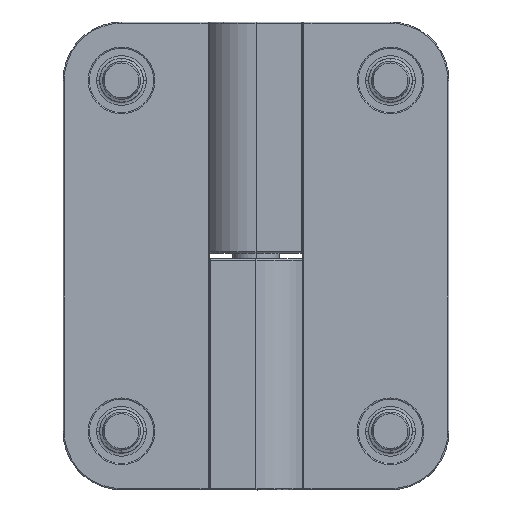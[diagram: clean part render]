
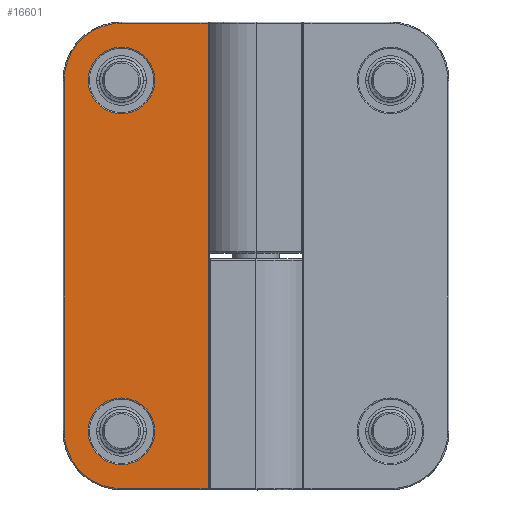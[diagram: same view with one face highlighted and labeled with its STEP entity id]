
A CAD part, top view. The second image highlights one B-rep face of the part: STEP entity #16601.
In plain terms, the highlighted planar face has unit normal (0, 0, 1).
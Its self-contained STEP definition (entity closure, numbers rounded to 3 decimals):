
#151 = CARTESIAN_POINT ( 'NONE',  ( -15., 30., 4. ) ) ;
#324 = ORIENTED_EDGE ( 'NONE', *, *, #3894, .F. ) ;
#596 = VECTOR ( 'NONE', #9252, 1000. ) ;
#663 = VERTEX_POINT ( 'NONE', #16618 ) ;
#782 = AXIS2_PLACEMENT_3D ( 'NONE', #151, #9173, #1475 ) ;
#889 = CIRCLE ( 'NONE', #15644, 5.7 ) ;
#931 = CARTESIAN_POINT ( 'NONE',  ( -15., 39.8, 4. ) ) ;
#1315 = CARTESIAN_POINT ( 'NONE',  ( -24.8, -30., 4. ) ) ;
#1475 = DIRECTION ( 'NONE',  ( 1., 0., 0. ) ) ;
#2021 = ORIENTED_EDGE ( 'NONE', *, *, #12802, .F. ) ;
#2070 = EDGE_CURVE ( 'NONE', #663, #13858, #7308, .T. ) ;
#2243 = VERTEX_POINT ( 'NONE', #11390 ) ;
#2323 = VECTOR ( 'NONE', #2650, 1000. ) ;
#2592 = CARTESIAN_POINT ( 'NONE',  ( -25., -39.8, 4. ) ) ;
#2650 = DIRECTION ( 'NONE',  ( -1., 0., 0. ) ) ;
#2797 = VERTEX_POINT ( 'NONE', #931 ) ;
#2822 = CARTESIAN_POINT ( 'NONE',  ( -15., 30., 4. ) ) ;
#2928 = VERTEX_POINT ( 'NONE', #10240 ) ;
#3054 = DIRECTION ( 'NONE',  ( 0., 0., 1. ) ) ;
#3316 = CARTESIAN_POINT ( 'NONE',  ( -25., 40., 4. ) ) ;
#3674 = CARTESIAN_POINT ( 'NONE',  ( -15., -30., 4. ) ) ;
#3801 = VERTEX_POINT ( 'NONE', #15336 ) ;
#3894 = EDGE_CURVE ( 'NONE', #2928, #2797, #10820, .T. ) ;
#4103 = DIRECTION ( 'NONE',  ( 1., 0., 0. ) ) ;
#4277 = DIRECTION ( 'NONE',  ( 0., 1., 0. ) ) ;
#4328 = DIRECTION ( 'NONE',  ( 0., 0., -1. ) ) ;
#4363 = EDGE_CURVE ( 'NONE', #15880, #2928, #13580, .T. ) ;
#4405 = EDGE_CURVE ( 'NONE', #2243, #3801, #10193, .T. ) ;
#4597 = DIRECTION ( 'NONE',  ( 1., 0., 0. ) ) ;
#4640 = VERTEX_POINT ( 'NONE', #4896 ) ;
#4667 = EDGE_CURVE ( 'NONE', #4640, #13872, #889, .T. ) ;
#4871 = EDGE_CURVE ( 'NONE', #10975, #663, #9570, .T. ) ;
#4874 = CIRCLE ( 'NONE', #6598, 5.7 ) ;
#4896 = CARTESIAN_POINT ( 'NONE',  ( -20.7, 30., 4. ) ) ;
#4961 = DIRECTION ( 'NONE',  ( 1., 0., 0. ) ) ;
#5072 = ORIENTED_EDGE ( 'NONE', *, *, #4871, .F. ) ;
#5096 = CARTESIAN_POINT ( 'NONE',  ( -0.2, 39.8, 4. ) ) ;
#5100 = CARTESIAN_POINT ( 'NONE',  ( -15., -39.8, 4. ) ) ;
#5935 = AXIS2_PLACEMENT_3D ( 'NONE', #2822, #11816, #4103 ) ;
#5984 = EDGE_LOOP ( 'NONE', ( #16318, #7998 ) ) ;
#6146 = VECTOR ( 'NONE', #15105, 1000. ) ;
#6598 = AXIS2_PLACEMENT_3D ( 'NONE', #3674, #12655, #4961 ) ;
#6816 = EDGE_LOOP ( 'NONE', ( #2021, #14723 ) ) ;
#6972 = CARTESIAN_POINT ( 'NONE',  ( -15., 30., 4. ) ) ;
#7308 = LINE ( 'NONE', #2592, #2323 ) ;
#7337 = AXIS2_PLACEMENT_3D ( 'NONE', #12033, #4328, #13304 ) ;
#7939 = CARTESIAN_POINT ( 'NONE',  ( -25., 39.8, 4. ) ) ;
#7998 = ORIENTED_EDGE ( 'NONE', *, *, #4405, .F. ) ;
#8264 = LINE ( 'NONE', #7939, #596 ) ;
#8270 = DIRECTION ( 'NONE',  ( 1., 0., 0. ) ) ;
#8645 = AXIS2_PLACEMENT_3D ( 'NONE', #3316, #12311, #4597 ) ;
#8892 = EDGE_CURVE ( 'NONE', #13858, #15880, #11946, .T. ) ;
#9173 = DIRECTION ( 'NONE',  ( 0., 0., -1. ) ) ;
#9192 = ORIENTED_EDGE ( 'NONE', *, *, #4363, .F. ) ;
#9221 = ORIENTED_EDGE ( 'NONE', *, *, #11156, .F. ) ;
#9252 = DIRECTION ( 'NONE',  ( 1., 0., 0. ) ) ;
#9570 = LINE ( 'NONE', #15048, #6146 ) ;
#9830 = FACE_OUTER_BOUND ( 'NONE', #15392, .T. ) ;
#9980 = AXIS2_PLACEMENT_3D ( 'NONE', #10763, #3054, #12037 ) ;
#10167 = EDGE_CURVE ( 'NONE', #3801, #2243, #4874, .T. ) ;
#10193 = CIRCLE ( 'NONE', #9980, 5.7 ) ;
#10240 = CARTESIAN_POINT ( 'NONE',  ( -24.8, 30., 4. ) ) ;
#10763 = CARTESIAN_POINT ( 'NONE',  ( -15., -30., 4. ) ) ;
#10820 = CIRCLE ( 'NONE', #782, 9.8 ) ;
#10975 = VERTEX_POINT ( 'NONE', #5096 ) ;
#11156 = EDGE_CURVE ( 'NONE', #2797, #10975, #8264, .T. ) ;
#11390 = CARTESIAN_POINT ( 'NONE',  ( -20.7, -30., 4. ) ) ;
#11816 = DIRECTION ( 'NONE',  ( 0., 0., 1. ) ) ;
#11946 = CIRCLE ( 'NONE', #7337, 9.8 ) ;
#11984 = ORIENTED_EDGE ( 'NONE', *, *, #8892, .F. ) ;
#12033 = CARTESIAN_POINT ( 'NONE',  ( -15., -30., 4. ) ) ;
#12037 = DIRECTION ( 'NONE',  ( 1., 0., 0. ) ) ;
#12252 = PLANE ( 'NONE',  #8645 ) ;
#12311 = DIRECTION ( 'NONE',  ( 0., 0., -1. ) ) ;
#12655 = DIRECTION ( 'NONE',  ( 0., 0., 1. ) ) ;
#12795 = ORIENTED_EDGE ( 'NONE', *, *, #2070, .F. ) ;
#12802 = EDGE_CURVE ( 'NONE', #13872, #4640, #12998, .T. ) ;
#12998 = CIRCLE ( 'NONE', #5935, 5.7 ) ;
#13254 = CARTESIAN_POINT ( 'NONE',  ( -24.8, 40., 4. ) ) ;
#13304 = DIRECTION ( 'NONE',  ( 1., 0., 0. ) ) ;
#13580 = LINE ( 'NONE', #13254, #13971 ) ;
#13630 = FACE_BOUND ( 'NONE', #5984, .T. ) ;
#13858 = VERTEX_POINT ( 'NONE', #5100 ) ;
#13872 = VERTEX_POINT ( 'NONE', #14017 ) ;
#13971 = VECTOR ( 'NONE', #4277, 1000. ) ;
#14017 = CARTESIAN_POINT ( 'NONE',  ( -9.3, 30., 4. ) ) ;
#14723 = ORIENTED_EDGE ( 'NONE', *, *, #4667, .F. ) ;
#15048 = CARTESIAN_POINT ( 'NONE',  ( -0.2, 40., 4. ) ) ;
#15105 = DIRECTION ( 'NONE',  ( 0., -1., 0. ) ) ;
#15336 = CARTESIAN_POINT ( 'NONE',  ( -9.3, -30., 4. ) ) ;
#15392 = EDGE_LOOP ( 'NONE', ( #9192, #11984, #12795, #5072, #9221, #324 ) ) ;
#15644 = AXIS2_PLACEMENT_3D ( 'NONE', #6972, #15945, #8270 ) ;
#15880 = VERTEX_POINT ( 'NONE', #1315 ) ;
#15945 = DIRECTION ( 'NONE',  ( 0., 0., 1. ) ) ;
#16318 = ORIENTED_EDGE ( 'NONE', *, *, #10167, .F. ) ;
#16601 = ADVANCED_FACE ( 'NONE', ( #9830, #13630, #16625 ), #12252, .F. ) ;
#16618 = CARTESIAN_POINT ( 'NONE',  ( -0.2, -39.8, 4. ) ) ;
#16625 = FACE_BOUND ( 'NONE', #6816, .T. ) ;
